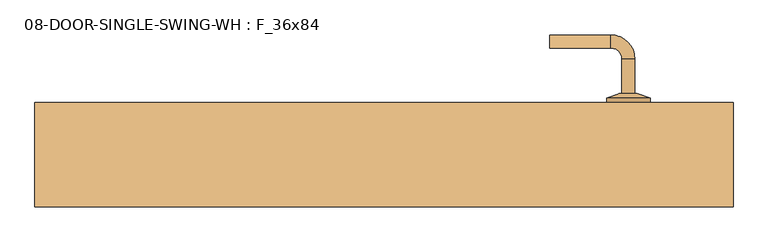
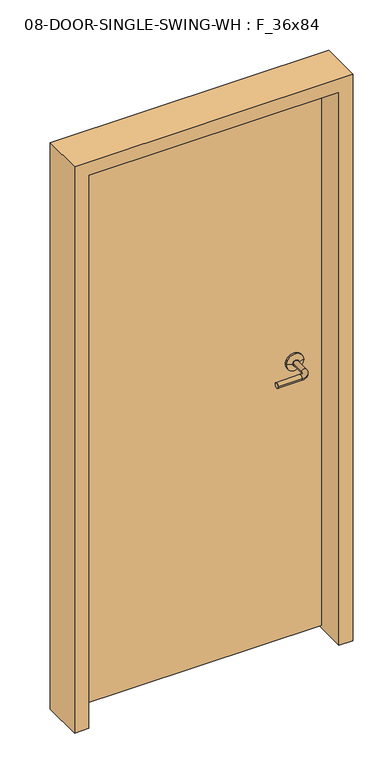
"""IFC4 building model written with IfcOpenShell, lengths in millimetres: door geometry, 08-DOOR-SINGLE-SWING-WH : F_36x84."""

from ifc_helpers import new_model, si_unit, point, frame, origin, place, context, project, spatial, polyline, circle_curve, ellipse_curve, trimmed, outline, extrude, source, transform, mapped, element, save
from ifc_brep_helpers import plane_surface, cylinder_surface, revolved_surface, advanced_brep


def door_08_door_single_swing_wh_f_36x84_601c17b8(model_context):
    return source(origin(), model_context, "Body", "SolidModel", [
        advanced_brep(
        [(364.4403202, 19.05, 1066.8), (383.4903202, 19.05, 1066.8), (383.4903202, -31.75, 1066.8), (364.4403202, -31.75, 1066.8), (348.5653202, -47.625, 1066.8), (348.5653202, -66.675, 1066.8), (259.6653202, -47.625, 1066.8), (259.6653202, -66.675, 1066.8)],
        [
            (0, 1, circle_curve(frame((373.9653202, 19.05, 1066.8), z_axis=(0.0, 1.0, 0.0), x_axis=(1.0, 0.0, 0.0)), 9.525)),
            (1, 0, circle_curve(frame((373.9653202, 19.05, 1066.8), z_axis=(0.0, 1.0, 0.0), x_axis=(1.0, 0.0, 0.0)), 9.525)),
            (1, 2),
            (2, 3, circle_curve(frame((373.9653202, -31.75, 1066.8), z_axis=(0.0, 1.0, 0.0), x_axis=(1.0, 0.0, 0.0)), 9.525)),
            (3, 0),
            (3, 2, circle_curve(frame((373.9653202, -31.75, 1066.8), z_axis=(0.0, 1.0, 0.0), x_axis=(1.0, 0.0, 0.0)), 9.525)),
            (4, 3, circle_curve(frame((348.5653202, -31.75, 1066.8), z_axis=(0.0, 0.0, 1.0), x_axis=(1.0, 0.0, 0.0)), 15.875)),
            (2, 5, circle_curve(frame((348.5653202, -31.75, 1066.8), z_axis=(0.0, 0.0, -1.0), x_axis=(1.0, 0.0, 0.0)), 34.925)),
            (5, 4, circle_curve(frame((348.5653202, -57.15, 1066.8), z_axis=(1.0, 0.0, 0.0), x_axis=(0.0, -1.0, 0.0)), 9.525)),
            (4, 5, circle_curve(frame((348.5653202, -57.15, 1066.8), z_axis=(1.0, 0.0, 0.0), x_axis=(0.0, -1.0, 0.0)), 9.525)),
            (6, 7, circle_curve(frame((259.6653202, -57.15, 1066.8), z_axis=(-1.0, 0.0, 0.0), x_axis=(0.0, -1.0, 0.0)), 9.525)),
            (7, 6, circle_curve(frame((259.6653202, -57.15, 1066.8), z_axis=(-1.0, 0.0, 0.0), x_axis=(0.0, -1.0, 0.0)), 9.525)),
            (5, 7),
            (6, 4),
        ],
        [
            plane_surface(frame((373.9653202, 19.05, 1066.8), z_axis=(0.0, 1.0, 0.0), x_axis=(0.0, 0.0, 1.0))),
            cylinder_surface(frame((373.9653202, 19.05, 1066.8), z_axis=(0.0, 1.0, 0.0), x_axis=(1.0, 0.0, 0.0)), 9.525),
            revolved_surface(trimmed(ellipse_curve(frame((373.9653202, -31.75, 1066.8), z_axis=(0.0, 1.0, 0.0), x_axis=(1.0, 0.0, 0.0)), 9.525, 9.525), [point((383.4903202, -31.75, 1066.8))], [point((364.4403202, -31.75, 1066.8))], True, "CARTESIAN"), (348.5653202, -31.75, 1066.8), (0.0, 0.0, -1.0)),
            revolved_surface(trimmed(ellipse_curve(frame((373.9653202, -31.75, 1066.8), z_axis=(0.0, 1.0, 0.0), x_axis=(1.0, 0.0, 0.0)), 9.525, 9.525), [point((364.4403202, -31.75, 1066.8))], [point((383.4903202, -31.75, 1066.8))], True, "CARTESIAN"), (348.5653202, -31.75, 1066.8), (0.0, 0.0, -1.0)),
            plane_surface(frame((259.6653202, -57.15, 1066.8), z_axis=(-1.0, 0.0, 0.0), x_axis=(0.0, 0.0, 1.0))),
            cylinder_surface(frame((348.5653202, -57.15, 1066.8), z_axis=(1.0, 0.0, 0.0), x_axis=(0.0, -1.0, 0.0)), 9.525),
        ],
        [
            (0, [[1, 2]]),
            (1, [[-2, 3, 4, 5]]),
            (1, [[-1, -5, 6, -3]]),
            (2, [[7, -4, 8, 9]]),
            (3, [[-8, -6, -7, 10]]),
            (4, [[11, 12]]),
            (5, [[-9, 13, -11, 14]]),
            (5, [[-10, -14, -12, -13]]),
        ],
    ),
        advanced_brep(
        [(373.9653202, 31.75, 1066.8), (405.7153202, 31.75, 1066.8), (342.2153202, 31.75, 1066.8), (405.7153202, 25.4, 1066.8), (342.2153202, 25.4, 1066.8), (386.6653202, 19.05, 1066.8), (361.2653202, 19.05, 1066.8), (373.9653202, 19.05, 1066.8)],
        [
            (0, 1),
            (1, 2, circle_curve(frame((373.9653202, 31.75, 1066.8), z_axis=(0.0, 1.0, 0.0), x_axis=(1.0, 0.0, 0.0)), 31.75)),
            (2, 0),
            (2, 1, circle_curve(frame((373.9653202, 31.75, 1066.8), z_axis=(0.0, 1.0, 0.0), x_axis=(1.0, 0.0, 0.0)), 31.75)),
            (1, 3),
            (3, 4, circle_curve(frame((373.9653202, 25.4, 1066.8), z_axis=(0.0, 1.0, 0.0), x_axis=(1.0, 0.0, 0.0)), 31.75)),
            (4, 2),
            (4, 3, circle_curve(frame((373.9653202, 25.4, 1066.8), z_axis=(0.0, 1.0, 0.0), x_axis=(1.0, 0.0, 0.0)), 31.75)),
            (3, 5),
            (5, 6, circle_curve(frame((373.9653202, 19.05, 1066.8), z_axis=(0.0, 1.0, 0.0), x_axis=(1.0, 0.0, 0.0)), 12.7)),
            (6, 4),
            (6, 5, circle_curve(frame((373.9653202, 19.05, 1066.8), z_axis=(0.0, 1.0, 0.0), x_axis=(1.0, 0.0, 0.0)), 12.7)),
            (5, 7),
            (7, 6),
        ],
        [
            plane_surface(frame((373.9653202, 31.75, 1066.8), z_axis=(0.0, 1.0, 0.0), x_axis=(1.0, 0.0, 0.0))),
            cylinder_surface(frame((373.9653202, 22.1418504, 1066.8), z_axis=(0.0, 1.0, 0.0), x_axis=(1.0, 0.0, 0.0)), 31.75),
            revolved_surface(polyline([(386.6653202, 19.05, 1066.8), (405.7153202, 25.4, 1066.8)]), (373.9653202, 22.1418504, 1066.8), (0.0, 1.0, 0.0)),
            plane_surface(frame((373.9653202, 19.05, 1066.8), z_axis=(0.0, -1.0, 0.0), x_axis=(1.0, 0.0, 0.0))),
        ],
        [
            (0, [[1, 2, 3]]),
            (0, [[-3, 4, -1]]),
            (1, [[-2, 5, 6, 7]]),
            (1, [[-4, -7, 8, -5]]),
            (2, [[-6, 9, 10, 11]]),
            (2, [[-8, -11, 12, -9]]),
            (3, [[-10, 13, 14]]),
            (3, [[-12, -14, -13]]),
        ],
    ),
        advanced_brep(
        [(383.4903202, 88.9, 1066.8), (364.4403202, 88.9, 1066.8), (383.4903202, 139.7, 1066.8), (364.4403202, 139.7, 1066.8), (348.5653202, 155.575, 1066.8), (348.5653202, 174.625, 1066.8), (259.6653202, 174.625, 1066.8), (259.6653202, 155.575, 1066.8)],
        [
            (0, 1, circle_curve(frame((373.9653202, 88.9, 1066.8), z_axis=(0.0, -1.0, 0.0), x_axis=(-1.0, 0.0, 0.0)), 9.525)),
            (1, 0, circle_curve(frame((373.9653202, 88.9, 1066.8), z_axis=(0.0, -1.0, 0.0), x_axis=(-1.0, 0.0, 0.0)), 9.525)),
            (0, 2),
            (2, 3, circle_curve(frame((373.9653202, 139.7, 1066.8), z_axis=(0.0, -1.0, 0.0), x_axis=(-1.0, 0.0, 0.0)), 9.525)),
            (3, 1),
            (3, 2, circle_curve(frame((373.9653202, 139.7, 1066.8), z_axis=(0.0, -1.0, 0.0), x_axis=(-1.0, 0.0, 0.0)), 9.525)),
            (4, 3, circle_curve(frame((348.5653202, 139.7, 1066.8), z_axis=(0.0, 0.0, -1.0), x_axis=(1.0, 0.0, 0.0)), 15.875)),
            (2, 5, circle_curve(frame((348.5653202, 139.7, 1066.8), z_axis=(0.0, 0.0, 1.0), x_axis=(1.0, 0.0, 0.0)), 34.925)),
            (5, 4, circle_curve(frame((348.5653202, 165.1, 1066.8), z_axis=(1.0, 0.0, 0.0), x_axis=(0.0, -1.0, 0.0)), 9.525)),
            (4, 5, circle_curve(frame((348.5653202, 165.1, 1066.8), z_axis=(1.0, 0.0, 0.0), x_axis=(0.0, -1.0, 0.0)), 9.525)),
            (6, 7, circle_curve(frame((259.6653202, 165.1, 1066.8), z_axis=(-1.0, 0.0, 0.0), x_axis=(0.0, -1.0, 0.0)), 9.525)),
            (7, 6, circle_curve(frame((259.6653202, 165.1, 1066.8), z_axis=(-1.0, 0.0, 0.0), x_axis=(0.0, -1.0, 0.0)), 9.525)),
            (5, 6),
            (7, 4),
        ],
        [
            plane_surface(frame((373.9653202, 88.9, 1066.8), z_axis=(0.0, -1.0, 0.0), x_axis=(0.0, 0.0, 1.0))),
            cylinder_surface(frame((373.9653202, 88.9, 1066.8), z_axis=(0.0, -1.0, 0.0), x_axis=(-1.0, 0.0, 0.0)), 9.525),
            revolved_surface(trimmed(ellipse_curve(frame((373.9653202, 139.7, 1066.8), z_axis=(0.0, -1.0, 0.0), x_axis=(-1.0, 0.0, 0.0)), 9.525, 9.525), [point((383.4903202, 139.7, 1066.8))], [point((364.4403202, 139.7, 1066.8))], True, "CARTESIAN"), (348.5653202, 139.7, 1066.8), (0.0, 0.0, 1.0)),
            revolved_surface(trimmed(ellipse_curve(frame((373.9653202, 139.7, 1066.8), z_axis=(0.0, -1.0, 0.0), x_axis=(-1.0, 0.0, 0.0)), 9.525, 9.525), [point((364.4403202, 139.7, 1066.8))], [point((383.4903202, 139.7, 1066.8))], True, "CARTESIAN"), (348.5653202, 139.7, 1066.8), (0.0, 0.0, 1.0)),
            plane_surface(frame((259.6653202, 165.1, 1066.8), z_axis=(-1.0, 0.0, 0.0), x_axis=(0.0, 0.0, 1.0))),
            cylinder_surface(frame((348.5653202, 165.1, 1066.8), z_axis=(1.0, 0.0, 0.0), x_axis=(0.0, -1.0, 0.0)), 9.525),
        ],
        [
            (0, [[1, 2]]),
            (1, [[-1, 3, 4, 5]]),
            (1, [[-2, -5, 6, -3]]),
            (2, [[7, -4, 8, 9]]),
            (3, [[-8, -6, -7, 10]]),
            (4, [[11, 12]]),
            (5, [[-9, 13, -12, 14]]),
            (5, [[-10, -14, -11, -13]]),
        ],
    ),
        advanced_brep(
        [(342.2153202, 76.2, 1066.8), (405.7153202, 76.2, 1066.8), (373.9653202, 76.2, 1066.8), (342.2153202, 82.55, 1066.8), (405.7153202, 82.55, 1066.8), (361.2653202, 88.9, 1066.8), (386.6653202, 88.9, 1066.8), (373.9653202, 88.9, 1066.8)],
        [
            (0, 1, circle_curve(frame((373.9653202, 76.2, 1066.8), z_axis=(0.0, -1.0, 0.0), x_axis=(1.0, 0.0, 0.0)), 31.75)),
            (1, 2),
            (2, 0),
            (1, 0, circle_curve(frame((373.9653202, 76.2, 1066.8), z_axis=(0.0, -1.0, 0.0), x_axis=(1.0, 0.0, 0.0)), 31.75)),
            (3, 4, circle_curve(frame((373.9653202, 82.55, 1066.8), z_axis=(0.0, -1.0, 0.0), x_axis=(1.0, 0.0, 0.0)), 31.75)),
            (4, 1),
            (0, 3),
            (4, 3, circle_curve(frame((373.9653202, 82.55, 1066.8), z_axis=(0.0, -1.0, 0.0), x_axis=(1.0, 0.0, 0.0)), 31.75)),
            (5, 6, circle_curve(frame((373.9653202, 88.9, 1066.8), z_axis=(0.0, -1.0, 0.0), x_axis=(1.0, 0.0, 0.0)), 12.7)),
            (6, 4),
            (3, 5),
            (6, 5, circle_curve(frame((373.9653202, 88.9, 1066.8), z_axis=(0.0, -1.0, 0.0), x_axis=(1.0, 0.0, 0.0)), 12.7)),
            (7, 6),
            (5, 7),
        ],
        [
            plane_surface(frame((373.9653202, 76.2, 1066.8), z_axis=(0.0, -1.0, 0.0), x_axis=(1.0, 0.0, 0.0))),
            cylinder_surface(frame((373.9653202, 85.8081496, 1066.8), z_axis=(0.0, 1.0, 0.0), x_axis=(1.0, 0.0, 0.0)), 31.75),
            revolved_surface(polyline([(405.7153202, 82.55, 1066.8), (386.6653202, 88.9, 1066.8)]), (373.9653202, 85.8081496, 1066.8), (0.0, 1.0, 0.0)),
            plane_surface(frame((373.9653202, 88.9, 1066.8), z_axis=(0.0, 1.0, 0.0), x_axis=(1.0, 0.0, 0.0))),
        ],
        [
            (0, [[1, 2, 3]]),
            (0, [[4, -3, -2]]),
            (1, [[5, 6, -1, 7]]),
            (1, [[8, -7, -4, -6]]),
            (2, [[9, 10, -5, 11]]),
            (2, [[12, -11, -8, -10]]),
            (3, [[13, -9, 14]]),
            (3, [[-14, -12, -13]]),
        ],
    ),
        extrude(outline(polyline([(475.5653202, 31.75), (-438.8346798, 31.75), (-438.8346798, 76.2), (475.5653202, 76.2), (475.5653202, 31.75)])), frame((0.0, 0.0, 12.7), z_axis=(0.0, 0.0, 1.0), x_axis=(1.0, 0.0, 0.0)), (0.0, 0.0, 1.0), 2120.9),
        extrude(outline(polyline([(0.0, 475.5653202), (0.0, 526.3653202), (2184.4, 526.3653202), (2184.4, -489.6346798), (0.0, -489.6346798), (0.0, -438.8346798), (2133.6, -438.8346798), (2133.6, 475.5653202), (0.0, 475.5653202)])), frame((0.0, -76.2, 0.0), z_axis=(0.0, 1.0, 0.0), x_axis=(0.0, 0.0, 1.0)), (0.0, 0.0, 1.0), 152.4),
    ])


if __name__ == "__main__":
    model = new_model("IFC4")
    model_context = context("Model", 3, world=origin())
    ifc_project = project(units=[si_unit("LENGTHUNIT", "METRE", prefix="MILLI")], contexts=[model_context])
    site = spatial("IfcSite", under=ifc_project)
    building = spatial("IfcBuilding", under=site)
    placement = place(None, origin())
    door_08_door_single_swing_wh_f_36x84_shape = door_08_door_single_swing_wh_f_36x84_601c17b8(model_context)
    element("IfcDoor", 1, ObjectType="08-DOOR-SINGLE-SWING-WH : F_36x84", at=placement, inside=building, context=model_context, shape_type="MappedRepresentation", body=[
        mapped(door_08_door_single_swing_wh_f_36x84_shape, transform((0.0, 0.0, 0.0), x_axis=(1.0, 0.0, 0.0), y_axis=(0.0, 1.0, 0.0), z_axis=(0.0, 0.0, 1.0))),
    ])
    save(model, "model.ifc")
